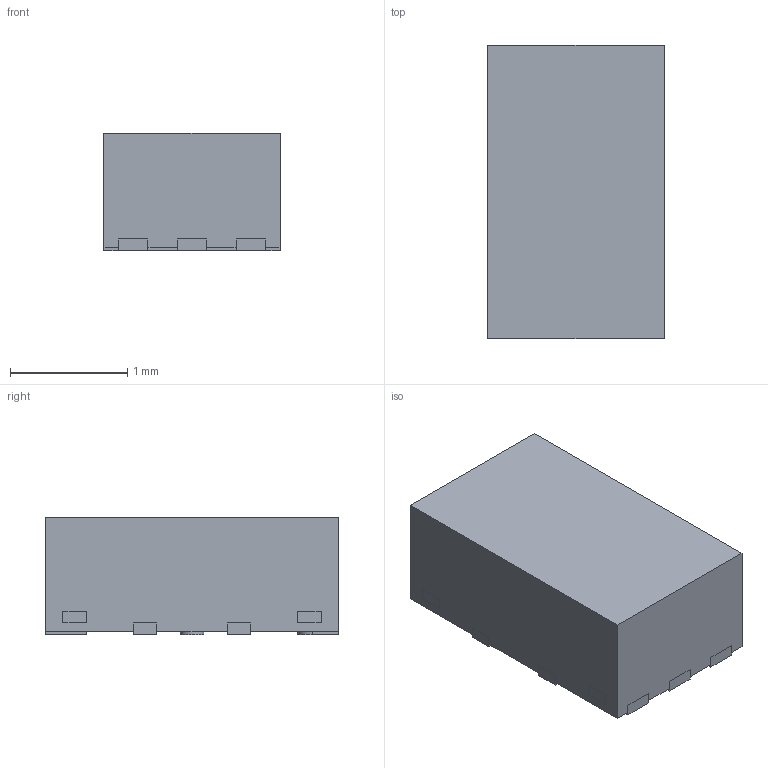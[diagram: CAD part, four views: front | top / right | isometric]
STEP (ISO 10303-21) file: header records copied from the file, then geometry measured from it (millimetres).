
FILE_DESCRIPTION((''),'2;1');
FILE_NAME('RQY0009A_ASM','2020-03-02T10:13:08',('a0412086'),(''),'CREO PARAMETRIC BY PTC INC, 2019292','CREO PARAMETRIC BY PTC INC, 2019292','');
FILE_SCHEMA(('AUTOMOTIVE_DESIGN { 1 0 10303 214 1 1 1 1 }'));
Length unit declared in the file: millimetre
Products named in the file (3): FRAME; MOLD; RQY0009A_ASM
Assembly tree (2 placements, depth 2):
  RQY0009A_ASM
    FRAME
    MOLD
Bounding box: 1.5 x 2.5 x 1 mm (x, y, z)
Volume: 3.7 mm3; surface area: 19.6 mm2
Topology: 14 solids, 14 shells, 142 faces, 330 edges, 220 vertices
Faces by surface type: plane 126, cylinder 16
Entity records: 5325 total; most frequent: CARTESIAN_POINT 704, ORIENTED_EDGE 660, DIRECTION 656, PRESENTATION_STYLE_ASSIGNMENT 357, STYLED_ITEM 344, CURVE_STYLE 330, EDGE_CURVE 330, VECTOR 298
